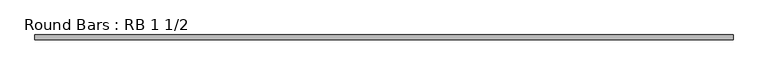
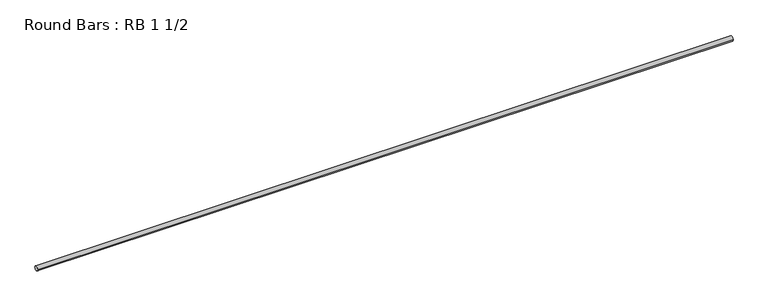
"""IFC4 building model written with IfcOpenShell, lengths in millimetres: member geometry, Round Bars : RB 1 1/2."""

import ifcopenshell
import ifcopenshell.guid

model = None  # the IFC model being written
_history = None  # IfcOwnerHistory: only IFC2X3 demands one
_inside = {}  # id of a spatial element -> (the spatial element, [elements in it])
_under = {}  # id of a project, library or spatial element -> (it, [spatial elements below it])
_declared = {}  # id of a project -> (the project, [libraries it declares])
_typed = {}  # id of a type object -> (the type object, [elements of that type])
_made_of = {}  # id of a material, layer set ... -> (it, [elements and type objects made of it])


def new_model(schema):
    """Start an empty IFC model of exactly this schema.

    Asked for "IFC4X3", IfcOpenShell would pick the latest addendum, in which some entities
    have other attributes; the version numbers below select the first issue.
    IFC2X3 requires an IfcOwnerHistory on every rooted entity: one is made here for all.
    """
    global model, _history
    if schema == "IFC4X3":
        model = ifcopenshell.file(schema_version=(4, 3, 0, 0))
    else:
        model = ifcopenshell.file(schema=schema)
    _inside.clear()
    _under.clear()
    _declared.clear()
    _typed.clear()
    _made_of.clear()
    _history = None
    if model.schema == "IFC2X3":
        org = make("IfcOrganization", Name="unknown")
        user = make(
            "IfcPersonAndOrganization",
            ThePerson=make("IfcPerson", FamilyName="unknown"),
            TheOrganization=org,
        )
        app = make(
            "IfcApplication",
            ApplicationDeveloper=org,
            Version="unknown",
            ApplicationFullName="unknown",
            ApplicationIdentifier="unknown",
        )
        _history = make(
            "IfcOwnerHistory",
            OwningUser=user,
            OwningApplication=app,
            ChangeAction="ADDED",
            CreationDate=0,
        )
    return model


def make(cls, **values):
    """One entity of the class cls with the attributes given. An attribute that is None is left unset."""
    return model.create_entity(
        cls, **{name: value for name, value in values.items() if value is not None}
    )


def rooted(cls, **values):
    """An entity with a GlobalId (a new one), such as an element, a storey or a relation."""
    return make(cls, GlobalId=ifcopenshell.guid.new(), OwnerHistory=_history, **values)


def si_unit(unit_type, name, prefix=None):
    """IfcSIUnit, for example si_unit("LENGTHUNIT", "METRE", prefix="MILLI")."""
    return make("IfcSIUnit", UnitType=unit_type, Prefix=prefix, Name=name)


def assignment(units):
    """IfcUnitAssignment: the units of a project."""
    return None if units is None else make("IfcUnitAssignment", Units=units)


def point(xyz):
    """IfcCartesianPoint."""
    return None if xyz is None else make("IfcCartesianPoint", Coordinates=xyz)


def direction(xyz):
    """IfcDirection."""
    return None if xyz is None else make("IfcDirection", DirectionRatios=xyz)


def frame(location, z_axis=None, x_axis=None):
    """IfcAxis2Placement3D, a coordinate frame: its origin and axes. An axis left out is left unset."""
    return make(
        "IfcAxis2Placement3D",
        Location=point(location),
        Axis=direction(z_axis),
        RefDirection=direction(x_axis),
    )


def frame_2d(location, x_axis=None):
    """IfcAxis2Placement2D, a coordinate frame in the plane: its origin and x axis."""
    return make(
        "IfcAxis2Placement2D", Location=point(location), RefDirection=direction(x_axis)
    )


def origin():
    """The frame at (0, 0, 0) with its axes left unset."""
    return frame((0.0, 0.0, 0.0))


def origin_2d():
    """The frame at (0, 0) in the plane with its x axis left unset."""
    return frame_2d((0.0, 0.0))


def place(relative_to, where):
    """IfcLocalPlacement: puts the frame where relative to a parent placement (None: the world)."""
    return make(
        "IfcLocalPlacement", PlacementRelTo=relative_to, RelativePlacement=where
    )


def context(
    kind, dimensions, precision=None, world=None, true_north=None, identifier=None
):
    """IfcGeometricRepresentationContext, for example the 3D "Model" context."""
    return make(
        "IfcGeometricRepresentationContext",
        ContextIdentifier=identifier,
        ContextType=kind,
        CoordinateSpaceDimension=dimensions,
        Precision=precision,
        WorldCoordinateSystem=world,
        TrueNorth=true_north,
    )


def project(units=None, contexts=None):
    """IfcProject with its units and contexts."""
    return rooted(
        "IfcProject",
        Name="project",
        RepresentationContexts=contexts,
        UnitsInContext=assignment(units),
    )


def spatial(cls, under=None, at=None, **own):
    """A site, building, storey or space (cls), placed at a placement, below another one or the project."""
    s = rooted(cls, ObjectPlacement=at, **own)
    if under is not None:
        _under.setdefault(under.id(), (under, []))[1].append(s)
    return s


def circle_curve(where, radius):
    """IfcCircle in the frame where."""
    return make("IfcCircle", Position=where, Radius=radius)


def trimmed(basis, trim1, trim2, sense, master):
    """IfcTrimmedCurve: the piece of a basis curve between two trims."""
    return make(
        "IfcTrimmedCurve",
        BasisCurve=basis,
        Trim1=trim1,
        Trim2=trim2,
        SenseAgreement=sense,
        MasterRepresentation=master,
    )


def segment(curve, same_sense, transition):
    """IfcCompositeCurveSegment."""
    return make(
        "IfcCompositeCurveSegment",
        Transition=transition,
        SameSense=same_sense,
        ParentCurve=curve,
    )


def composite_curve(segments, self_intersect=None):
    """IfcCompositeCurve: segments joined end to end."""
    return make("IfcCompositeCurve", Segments=segments, SelfIntersect=self_intersect)


def outline(outer, holes=None, kind="AREA"):
    """IfcArbitraryClosedProfileDef: a profile drawn as a closed curve; with holes, ...WithVoids."""
    if holes is None:
        return make("IfcArbitraryClosedProfileDef", ProfileType=kind, OuterCurve=outer)
    return make(
        "IfcArbitraryProfileDefWithVoids",
        ProfileType=kind,
        OuterCurve=outer,
        InnerCurves=holes,
    )


def extrude(swept, where, along, depth):
    """IfcExtrudedAreaSolid: the profile swept, set in the frame where, extruded along a direction by depth."""
    return make(
        "IfcExtrudedAreaSolid",
        SweptArea=swept,
        Position=where,
        ExtrudedDirection=direction(along),
        Depth=depth,
    )


def shape(context_of_items, identifier, shape_type, items):
    """IfcShapeRepresentation: the items that make up one representation, for example the "Body"."""
    return make(
        "IfcShapeRepresentation",
        ContextOfItems=context_of_items,
        RepresentationIdentifier=identifier,
        RepresentationType=shape_type,
        Items=items,
    )


def source(mapping_origin, context_of_items, identifier, shape_type, items):
    """IfcRepresentationMap: a shape defined once, which mapped items show again and again."""
    return make(
        "IfcRepresentationMap",
        MappingOrigin=mapping_origin,
        MappedRepresentation=shape(context_of_items, identifier, shape_type, items),
    )


def transform(
    local_origin,
    x_axis=None,
    y_axis=None,
    z_axis=None,
    scale=None,
    scale2=None,
    scale3=None,
    uniform=True,
):
    """IfcCartesianTransformationOperator3D, or its non-uniform kind. x_axis, y_axis, z_axis: its Axis1, 2, 3."""
    if uniform:
        return make(
            "IfcCartesianTransformationOperator3D",
            Axis1=direction(x_axis),
            Axis2=direction(y_axis),
            LocalOrigin=point(local_origin),
            Scale=scale,
            Axis3=direction(z_axis),
        )
    return make(
        "IfcCartesianTransformationOperator3DnonUniform",
        Axis1=direction(x_axis),
        Axis2=direction(y_axis),
        LocalOrigin=point(local_origin),
        Scale=scale,
        Axis3=direction(z_axis),
        Scale2=scale2,
        Scale3=scale3,
    )


def mapped(mapping_source, mapping_target):
    """IfcMappedItem: shows the shape of a source again, moved by a transform."""
    return make(
        "IfcMappedItem", MappingSource=mapping_source, MappingTarget=mapping_target
    )


def made_of(thing, what):
    """Note that an element or type object is made of a material, layer set ...; save() writes the relation."""
    if what is not None:
        _made_of.setdefault(what.id(), (what, []))[1].append(thing)
    return thing


def element(
    cls,
    number,
    at=None,
    inside=None,
    cuts=None,
    type_object=None,
    material=None,
    context=None,
    identifier="Body",
    shape_type=None,
    held_by="IfcProductDefinitionShape",
    body=None,
    shapes=None,
    **own,
):
    """One element of the class cls, such as IfcWall. Its Tag is "e" and its number.

    at: its placement. inside: the storey or other place that contains it. cuts: it is an
    opening in that element (IfcRelVoidsElement). A single representation is given by context,
    identifier, shape_type and body (its items); several are given by shapes. held_by: the class
    of the entity that holds the representations. save() writes the other relations.
    """
    e = rooted(cls, Tag="e%d" % number, ObjectPlacement=at, **own)
    if body is not None:
        shapes = [shape(context, identifier, shape_type, body)]
    if shapes is not None:
        e.Representation = make(held_by, Representations=shapes)
    if inside is not None:
        _inside.setdefault(inside.id(), (inside, []))[1].append(e)
    if cuts is not None:
        rooted(
            "IfcRelVoidsElement", RelatingBuildingElement=cuts, RelatedOpeningElement=e
        )
    if type_object is not None:
        _typed.setdefault(type_object.id(), (type_object, []))[1].append(e)
    return made_of(e, material)


def aggregate(whole, parts):
    """IfcRelAggregates: a whole, such as a stair, and the parts it consists of."""
    return rooted("IfcRelAggregates", RelatingObject=whole, RelatedObjects=parts)


def save(model, path):
    """Write the relations noted so far, then the file.

    IfcRelAggregates (storeys below a building ...), IfcRelContainedInSpatialStructure (elements
    in a storey), IfcRelDefinesByType, IfcRelAssociatesMaterial and IfcRelDeclares: one each for
    every whole, place, type object, material and project.
    """
    for whole, parts in _under.values():
        aggregate(whole, parts)
    for where, things in _inside.values():
        rooted(
            "IfcRelContainedInSpatialStructure",
            RelatedElements=things,
            RelatingStructure=where,
        )
    for kind, things in _typed.values():
        rooted("IfcRelDefinesByType", RelatedObjects=things, RelatingType=kind)
    for what, things in _made_of.values():
        rooted("IfcRelAssociatesMaterial", RelatedObjects=things, RelatingMaterial=what)
    for by, libraries in _declared.values():
        rooted("IfcRelDeclares", RelatingContext=by, RelatedDefinitions=libraries)
    model.write(path)


def round_bars_rb_1_1_2_c7e7619b(model_context):
    return source(origin(), model_context, "Body", "SweptSolid", [
        extrude(outline(composite_curve([segment(trimmed(circle_curve(origin_2d(), 19.05), [point((19.05, 0.0))], [point((-19.05, 0.0))], False, "CARTESIAN"), True, "CONTINUOUS"), segment(trimmed(circle_curve(origin_2d(), 19.05), [point((-19.05, 0.0))], [point((19.05, 0.0))], False, "CARTESIAN"), True, "CONTINUOUS")], self_intersect=False)), frame((-2819.4096658, 0.0, 0.0), z_axis=(1.0, 0.0, 0.0), x_axis=(0.0, 1.0, 0.0)), (0.0, 0.0, 1.0), 5638.8193315),
    ])


if __name__ == "__main__":
    model = new_model("IFC4")
    model_context = context("Model", 3, world=origin())
    ifc_project = project(units=[si_unit("LENGTHUNIT", "METRE", prefix="MILLI")], contexts=[model_context])
    site = spatial("IfcSite", under=ifc_project)
    building = spatial("IfcBuilding", under=site)
    placement = place(None, origin())
    round_bars_rb_1_1_2_shape = round_bars_rb_1_1_2_c7e7619b(model_context)
    element("IfcMember", 1, ObjectType="Round Bars : RB 1 1/2", at=placement, inside=building, context=model_context, shape_type="MappedRepresentation", body=[
        mapped(round_bars_rb_1_1_2_shape, transform((0.0, 0.0, 0.0), x_axis=(1.0, 0.0, 0.0), y_axis=(0.0, 1.0, 0.0), z_axis=(0.0, 0.0, 1.0))),
    ])
    save(model, "model.ifc")
